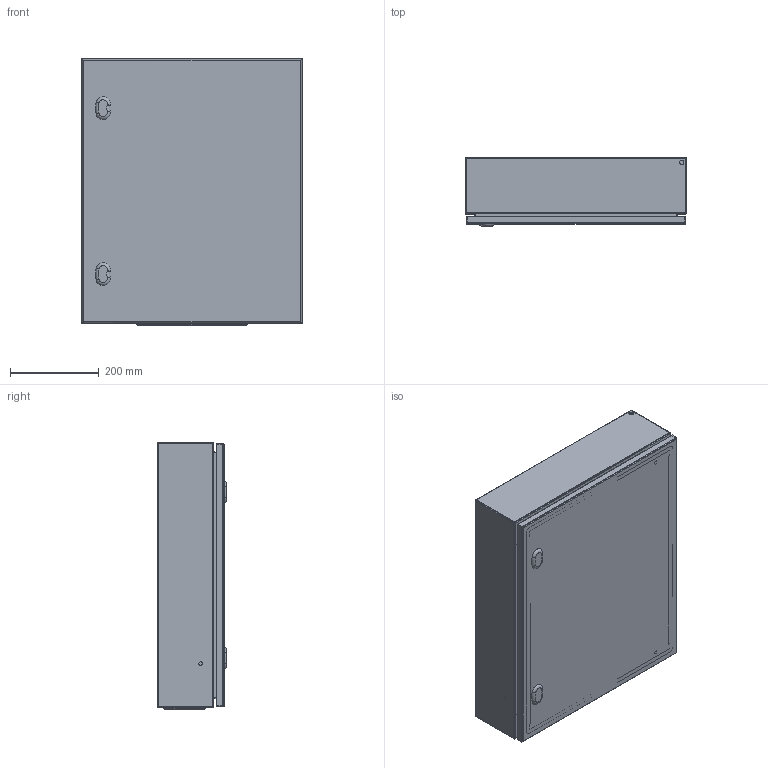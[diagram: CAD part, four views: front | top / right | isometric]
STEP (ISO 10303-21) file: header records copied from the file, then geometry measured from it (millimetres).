
FILE_DESCRIPTION(/* description */ ('STEP AP214'),/* implementation_level */ '2;1');
FILE_NAME(/* name */ 'EC050615-LOD400',/* time_stamp */ '2025-07-31T13:32:15+02:00',/* author */ ('License CC BY-ND 4.0'),/* organization */ ('CADENAS'),/* preprocessor_version */ 'ST-DEVELOPER v19.3',/* originating_system */ 'PARTsolutions',/* authorisation */ ' ');
FILE_SCHEMA (('AUTOMOTIVE_DESIGN {1 0 10303 214 3 1 1}'));
Length unit declared in the file: millimetre
Products named in the file (5): EC050615-LOD400; EC050615-LOD400_cabinet; EC050615-LOD400_door; EC050615-LOD400_bottom_plate; EC050615-LOD400_inner_plate
Assembly tree (4 placements, depth 2):
  EC050615-LOD400
    EC050615-LOD400_cabinet
    EC050615-LOD400_door
    EC050615-LOD400_bottom_plate
    EC050615-LOD400_inner_plate
Bounding box: 500 x 155 x 604 mm (x, y, z)
Volume: 2012686.4 mm3; surface area: 2573382.5 mm2
Topology: 4 solids, 4 shells, 446 faces, 1130 edges, 736 vertices
Faces by surface type: cylinder 186, plane 176, torus 44, cone 40
Full cylindrical faces by diameter (mm): 1 x16, 4.5 x44, 5 x4, 5.5 x4, 6 x4, 7 x4, 8 x12, 10 x10, 14 x4
Entity records: 12771 total; most frequent: DIRECTION 2326, CARTESIAN_POINT 2067, ORIENTED_EDGE 1868, AXIS2_PLACEMENT_3D 941, EDGE_CURVE 934, EDGE_LOOP 778, FACE_BOUND 778, VERTEX_POINT 682
